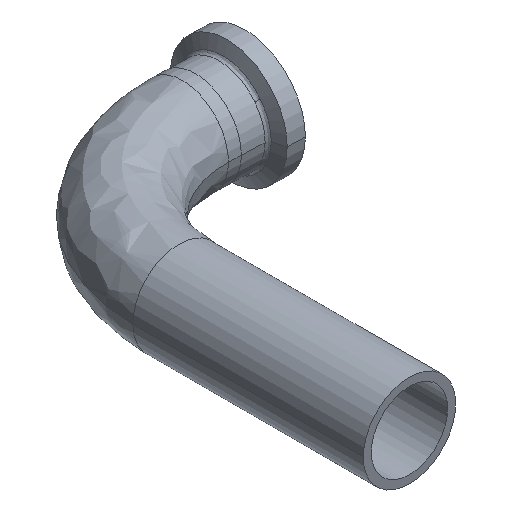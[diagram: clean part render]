
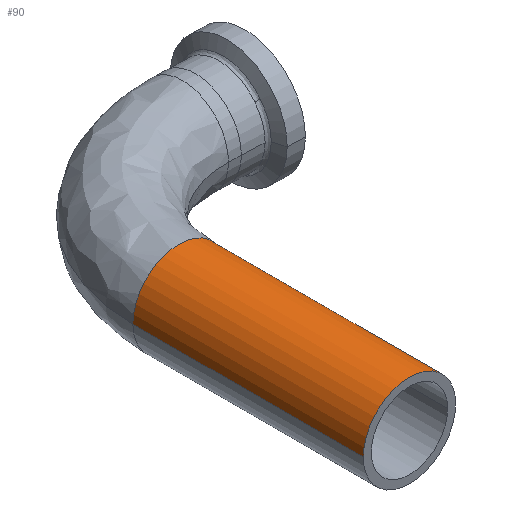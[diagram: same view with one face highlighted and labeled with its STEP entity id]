
A CAD part, isometric view. The second image highlights one B-rep face of the part: STEP entity #90.
In plain terms, the highlighted cylindrical face has radius 9.525 mm (diameter 19.05 mm), a partial arc.
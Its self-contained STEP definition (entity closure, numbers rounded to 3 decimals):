
#30 = AXIS2_PLACEMENT_3D ( 'NONE', #1262, #965, #875 ) ;
#33 = VECTOR ( 'NONE', #1275, 1000. ) ;
#54 = EDGE_LOOP ( 'NONE', ( #1194, #424, #533, #1061 ) ) ;
#56 = AXIS2_PLACEMENT_3D ( 'NONE', #742, #686, #694 ) ;
#90 = ADVANCED_FACE ( 'NONE', ( #888 ), #818, .T. ) ;
#123 = CARTESIAN_POINT ( 'NONE',  ( -9.525, 47.546, 0. ) ) ;
#189 = EDGE_CURVE ( 'NONE', #672, #701, #783, .T. ) ;
#204 = CIRCLE ( 'NONE', #500, 9.525 ) ;
#205 = LINE ( 'NONE', #978, #33 ) ;
#226 = CARTESIAN_POINT ( 'NONE',  ( 9.525, 47.546, 0. ) ) ;
#287 = DIRECTION ( 'NONE',  ( 1., 0., 0. ) ) ;
#335 = DIRECTION ( 'NONE',  ( 0., 1., 0. ) ) ;
#338 = CARTESIAN_POINT ( 'NONE',  ( 0., 0., 0. ) ) ;
#404 = VERTEX_POINT ( 'NONE', #768 ) ;
#424 = ORIENTED_EDGE ( 'NONE', *, *, #1058, .T. ) ;
#500 = AXIS2_PLACEMENT_3D ( 'NONE', #338, #335, #287 ) ;
#533 = ORIENTED_EDGE ( 'NONE', *, *, #1131, .T. ) ;
#672 = VERTEX_POINT ( 'NONE', #226 ) ;
#678 = CARTESIAN_POINT ( 'NONE',  ( 9.525, 0., 0. ) ) ;
#686 = DIRECTION ( 'NONE',  ( 0., -1., 0. ) ) ;
#694 = DIRECTION ( 'NONE',  ( 1., 0., 0. ) ) ;
#701 = VERTEX_POINT ( 'NONE', #123 ) ;
#710 = VECTOR ( 'NONE', #1099, 1000. ) ;
#742 = CARTESIAN_POINT ( 'NONE',  ( 0., 47.546, 0. ) ) ;
#750 = LINE ( 'NONE', #1165, #710 ) ;
#768 = CARTESIAN_POINT ( 'NONE',  ( -9.525, 0., 0. ) ) ;
#779 = EDGE_CURVE ( 'NONE', #672, #1155, #205, .T. ) ;
#783 = CIRCLE ( 'NONE', #30, 9.525 ) ;
#818 = CYLINDRICAL_SURFACE ( 'NONE', #56, 9.525 ) ;
#875 = DIRECTION ( 'NONE',  ( 1., 0., 0. ) ) ;
#888 = FACE_OUTER_BOUND ( 'NONE', #54, .T. ) ;
#965 = DIRECTION ( 'NONE',  ( 0., -1., 0. ) ) ;
#978 = CARTESIAN_POINT ( 'NONE',  ( 9.525, 47.546, 0. ) ) ;
#1058 = EDGE_CURVE ( 'NONE', #701, #404, #750, .T. ) ;
#1061 = ORIENTED_EDGE ( 'NONE', *, *, #779, .F. ) ;
#1099 = DIRECTION ( 'NONE',  ( 0., -1., 0. ) ) ;
#1131 = EDGE_CURVE ( 'NONE', #404, #1155, #204, .T. ) ;
#1155 = VERTEX_POINT ( 'NONE', #678 ) ;
#1165 = CARTESIAN_POINT ( 'NONE',  ( -9.525, 47.546, 0. ) ) ;
#1194 = ORIENTED_EDGE ( 'NONE', *, *, #189, .T. ) ;
#1262 = CARTESIAN_POINT ( 'NONE',  ( 0., 47.546, 0. ) ) ;
#1275 = DIRECTION ( 'NONE',  ( 0., -1., 0. ) ) ;
